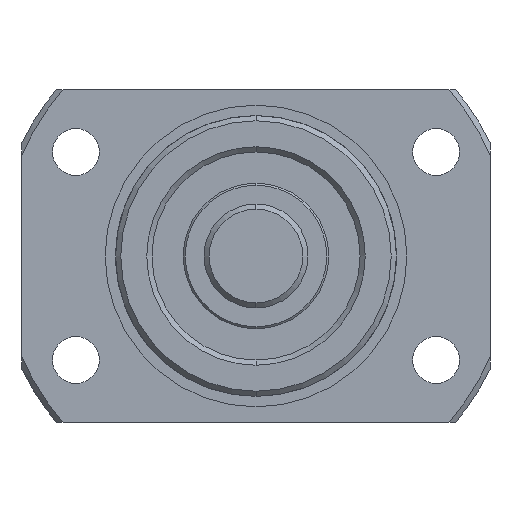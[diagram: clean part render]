
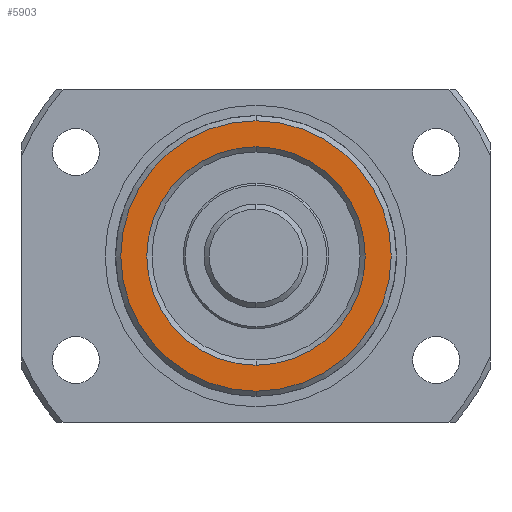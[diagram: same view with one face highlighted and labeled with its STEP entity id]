
A CAD part, left-side view. The second image highlights one B-rep face of the part: STEP entity #5903.
In plain terms, the highlighted planar face has unit normal (-1, 0, 0).
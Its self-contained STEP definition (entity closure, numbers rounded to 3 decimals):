
#813 = FACE_OUTER_BOUND ( 'NONE', #3544, .T. ) ;
#816 = FACE_BOUND ( 'NONE', #3889, .T. ) ;
#871 = VERTEX_POINT ( 'NONE', #2215 ) ;
#872 = VERTEX_POINT ( 'NONE', #2191 ) ;
#1413 = CARTESIAN_POINT ( 'NONE',  ( -30., 0., 13. ) ) ;
#1710 = AXIS2_PLACEMENT_3D ( 'NONE', #5394, #5393, #5398 ) ;
#1837 = AXIS2_PLACEMENT_3D ( 'NONE', #4225, #4226, #4227 ) ;
#1838 = AXIS2_PLACEMENT_3D ( 'NONE', #4231, #4232, #4233 ) ;
#1933 = VERTEX_POINT ( 'NONE', #1413 ) ;
#2191 = CARTESIAN_POINT ( 'NONE',  ( -30., 0., -10.5 ) ) ;
#2215 = CARTESIAN_POINT ( 'NONE',  ( -30., 0., -13. ) ) ;
#2260 = CIRCLE ( 'NONE', #1838, 10.5 ) ;
#3203 = DIRECTION ( 'NONE',  ( -1., 0., 0. ) ) ;
#3242 = DIRECTION ( 'NONE',  ( 0., 0., 1. ) ) ;
#3245 = CARTESIAN_POINT ( 'NONE',  ( -30., 0., 0. ) ) ;
#3260 = DIRECTION ( 'NONE',  ( -1., 0., 0. ) ) ;
#3263 = DIRECTION ( 'NONE',  ( 0., 0., 1. ) ) ;
#3266 = CARTESIAN_POINT ( 'NONE',  ( -30., 0., 0. ) ) ;
#3326 = EDGE_CURVE ( 'NONE', #871, #1933, #4863, .T. ) ;
#3327 = EDGE_CURVE ( 'NONE', #3738, #872, #4864, .T. ) ;
#3544 = EDGE_LOOP ( 'NONE', ( #4569, #4563 ) ) ;
#3738 = VERTEX_POINT ( 'NONE', #4171 ) ;
#3783 = EDGE_CURVE ( 'NONE', #1933, #871, #4928, .T. ) ;
#3785 = EDGE_CURVE ( 'NONE', #872, #3738, #2260, .T. ) ;
#3889 = EDGE_LOOP ( 'NONE', ( #4607, #4634 ) ) ;
#4171 = CARTESIAN_POINT ( 'NONE',  ( -30., 0., 10.5 ) ) ;
#4225 = CARTESIAN_POINT ( 'NONE',  ( -30., 0., 0. ) ) ;
#4226 = DIRECTION ( 'NONE',  ( -1., 0., 0. ) ) ;
#4227 = DIRECTION ( 'NONE',  ( 0., 0., 1. ) ) ;
#4231 = CARTESIAN_POINT ( 'NONE',  ( -30., 0., 0. ) ) ;
#4232 = DIRECTION ( 'NONE',  ( -1., 0., 0. ) ) ;
#4233 = DIRECTION ( 'NONE',  ( 0., 0., 1. ) ) ;
#4563 = ORIENTED_EDGE ( 'NONE', *, *, #3783, .T. ) ;
#4569 = ORIENTED_EDGE ( 'NONE', *, *, #3326, .T. ) ;
#4607 = ORIENTED_EDGE ( 'NONE', *, *, #3327, .F. ) ;
#4634 = ORIENTED_EDGE ( 'NONE', *, *, #3785, .F. ) ;
#4863 = CIRCLE ( 'NONE', #6253, 13. ) ;
#4864 = CIRCLE ( 'NONE', #6254, 10.5 ) ;
#4928 = CIRCLE ( 'NONE', #1837, 13. ) ;
#5393 = DIRECTION ( 'NONE',  ( 1., 0., 0. ) ) ;
#5394 = CARTESIAN_POINT ( 'NONE',  ( -30., 13., 0. ) ) ;
#5396 = PLANE ( 'NONE',  #1710 ) ;
#5398 = DIRECTION ( 'NONE',  ( 0., 0., -1. ) ) ;
#5903 = ADVANCED_FACE ( 'NONE', ( #816, #813 ), #5396, .F. ) ;
#6253 = AXIS2_PLACEMENT_3D ( 'NONE', #3266, #3260, #3263 ) ;
#6254 = AXIS2_PLACEMENT_3D ( 'NONE', #3245, #3203, #3242 ) ;
